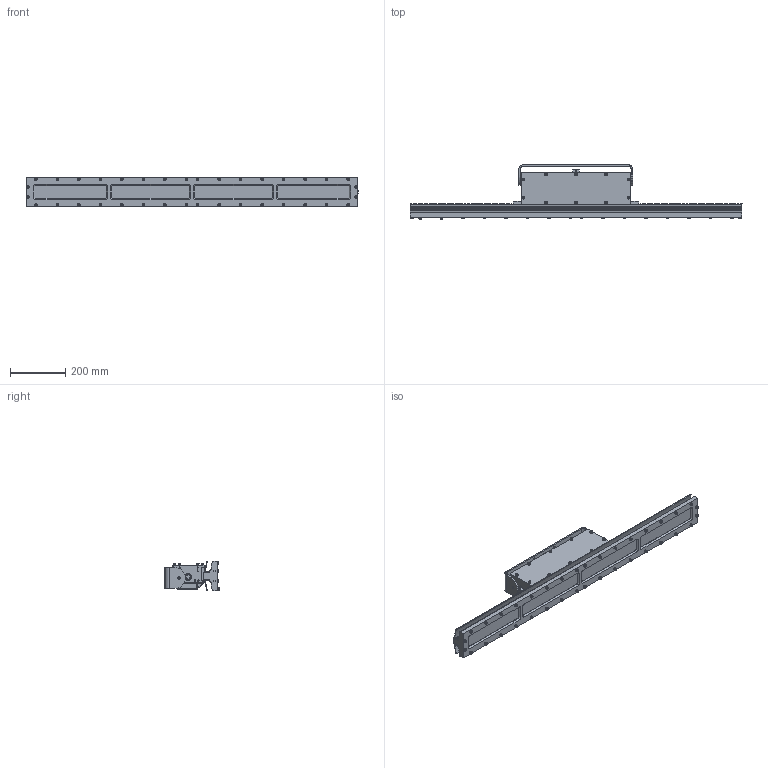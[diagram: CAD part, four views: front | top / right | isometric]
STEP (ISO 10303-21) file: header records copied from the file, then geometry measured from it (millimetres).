
FILE_DESCRIPTION (( 'STEP AP203' ), '1' );
FILE_NAME ('EPL-48-100LED-SFC.STEP', '2013-10-20T03:06:01', ( 'CAD' ), ( 'Toshiba' ), 'SwSTEP 2.0', 'SolidWorks 2011', '' );
FILE_SCHEMA (( 'CONFIG_CONTROL_DESIGN' ));
Length unit declared in the file: millimetre
Products named in the file (4): EPL-48-100LED; LSC3C4M3GEX U mount; EPL-48-100LED-SFC; socket head cap screw_ai_HX-SHCS 0.25-20x0.25x0.25-N
Assembly tree (49 placements, depth 2):
  EPL-48-100LED-SFC
    socket head cap screw_ai_HX-SHCS 0.25-20x0.25x0.25-N  x47
    EPL-48-100LED
    LSC3C4M3GEX U mount
Bounding box: 1204.91 x 196.35 x 107.95 mm (x, y, z)
Volume: 6925602.8 mm3; surface area: 958557.5 mm2
Topology: 49 solids, 49 shells, 2004 faces, 4593 edges, 2640 vertices
Faces by surface type: plane 900, cylinder 531, cone 390, bspline 183
Entity records: 26955 total; most frequent: CARTESIAN_POINT 7735, DIRECTION 3739, ORIENTED_EDGE 3622, EDGE_CURVE 1811, AXIS2_PLACEMENT_3D 1394, VERTEX_POINT 1122, VECTOR 951, LINE 951
